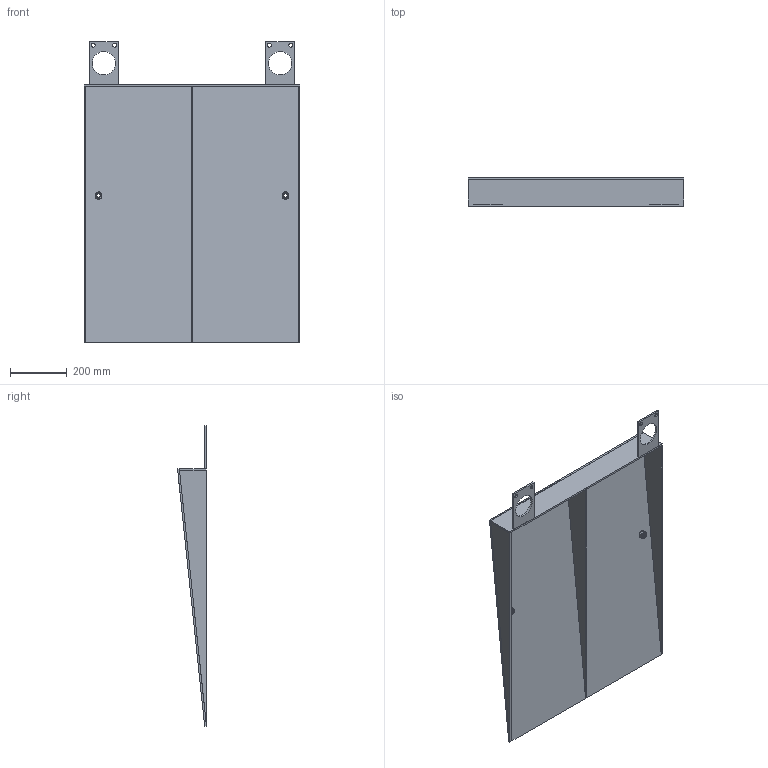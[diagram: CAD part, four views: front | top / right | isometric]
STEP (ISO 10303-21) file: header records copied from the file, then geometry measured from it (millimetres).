
FILE_DESCRIPTION (( 'STEP AP214' ), '1' );
FILE_NAME ('HR-CT-3036 RAMP.STEP', '2024-05-31T16:10:44', ( '' ), ( '' ), 'SwSTEP 2.0', 'SolidWorks 2023', '' );
FILE_SCHEMA (( 'AUTOMOTIVE_DESIGN' ));
Length unit declared in the file: inch
Products named in the file (6): 100-96485_TREAD; Hex Nut - 5_8 - 11_CS Heavy; 100-96271; HR-CT-3036 RAMP; PL.25 x 3.75 x 30; HP-00055_CS
Assembly tree (9 placements, depth 2):
  HR-CT-3036 RAMP
    PL.25 x 3.75 x 30
    100-96485_TREAD
    100-96271  x3
    HP-00055_CS  x2
    Hex Nut - 5_8 - 11_CS Heavy  x2
Bounding box: 762 x 102.37 x 1062.41 mm (x, y, z)
Volume: 5834207.7 mm3; surface area: 1920169.8 mm2
Topology: 9 solids, 9 shells, 191 faces, 403 edges, 230 vertices
Faces by surface type: cone 88, plane 55, cylinder 48
Entity records: 3068 total; most frequent: CARTESIAN_POINT 636, DIRECTION 499, ORIENTED_EDGE 430, EDGE_CURVE 215, AXIS2_PLACEMENT_3D 195, VERTEX_POINT 124, EDGE_LOOP 113, VECTOR 109
